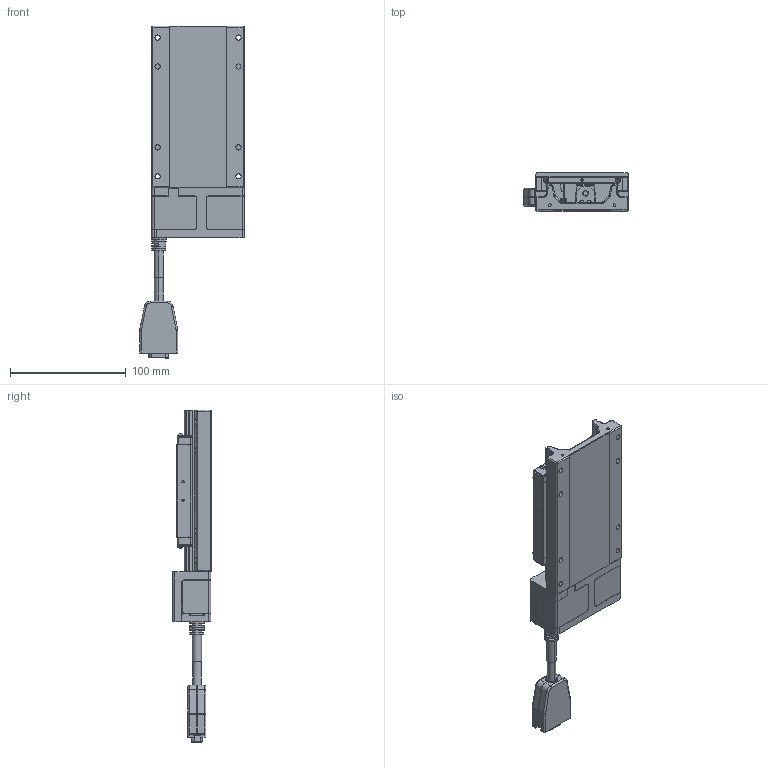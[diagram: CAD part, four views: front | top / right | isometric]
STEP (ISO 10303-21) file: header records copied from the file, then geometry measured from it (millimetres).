
FILE_DESCRIPTION (( 'STEP AP203' ), '1' );
FILE_NAME ('CXN8030-S2?N(µL°¨¹F).S', '2024-01-05T05:06:09', ( '' ), ( '' ), 'SwSTEP 2.0', 'SolidWorks 2019', '' );
FILE_SCHEMA (( 'CONFIG_CONTROL_DESIGN' ));
Length unit declared in the file: millimetre
Products named in the file (3): Group1^CXN8030-S2?N(28框無馬達)_defeature_GMT; Group2^CXN8030-S2?N(28框無馬達)_defeature_GMT; CXN8030-S2?N(無馬達)
Assembly tree (2 placements, depth 2):
  CXN8030-S2?N(無馬達)
    Group1^CXN8030-S2?N(28框無馬達)_defeature_GMT
    Group2^CXN8030-S2?N(28框無馬達)_defeature_GMT
Bounding box: 90.5 x 33.5 x 287.1 mm (x, y, z)
Volume: 59665.9 mm3; surface area: 108016.3 mm2
Topology: 3 solids, 6 shells, 3356 faces, 8644 edges, 5263 vertices
Faces by surface type: plane 1386, cylinder 1045, bspline 305, torus 258, cone 192, sphere 170
Entity records: 113387 total; most frequent: CARTESIAN_POINT 33097, ORIENTED_EDGE 16894, DIRECTION 16782, EDGE_CURVE 8447, AXIS2_PLACEMENT_3D 6097, VERTEX_POINT 5220, LINE 4588, VECTOR 4588
